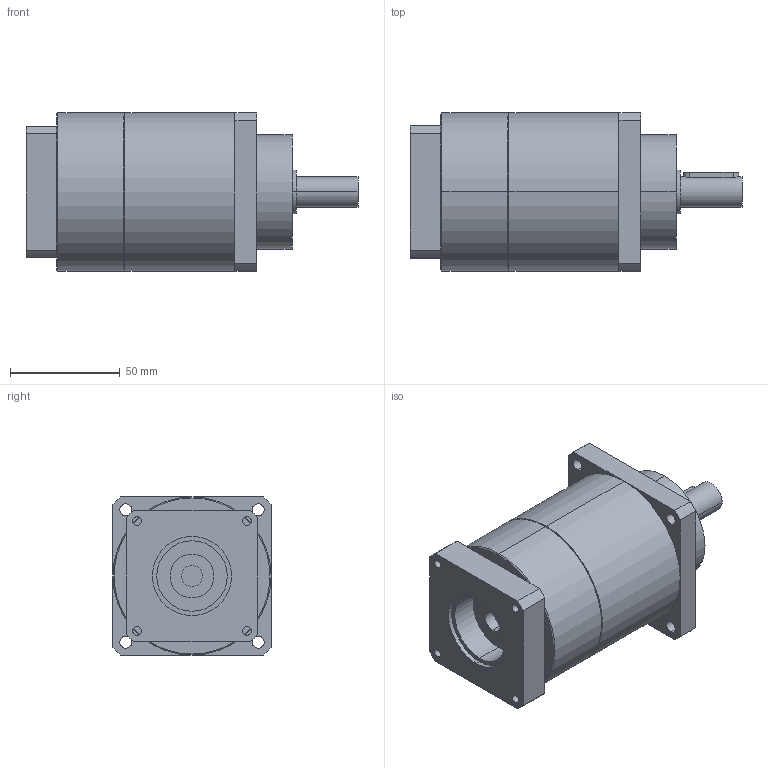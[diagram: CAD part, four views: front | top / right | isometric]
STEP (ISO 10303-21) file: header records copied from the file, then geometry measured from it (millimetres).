
FILE_DESCRIPTION(('CoCreate Modeling STEP Export'),'2;1');
FILE_NAME('GPT75_ig-9-12-16-20-25-28-35-40-50-70-100_14_B5T_9.52_P35.stp','2014-08-27T13:43:32',(''),(''),'CoCreate Modeling STEP processor for AP214 (Solid Model)','CoCreate Modeling 16.00C 25-Feb-2009 (C) Parametric Technology GmbH','');
FILE_SCHEMA(('AUTOMOTIVE_DESIGN { 1 0 10303 214 1 1 1 1 }'));
Length unit declared in the file: millimetre
Products named in the file (2): GPT75_ig-9-12-16-20-25-28-35-40-50-70-100_14_B5T_9.52_P35
Assembly tree (1 placements, depth 2):
  GPT75_ig-9-12-16-20-25-28-35-40-50-70-100_14_B5T_9.52_P35
    GPT75_ig-9-12-16-20-25-28-35-40-50-70-100_14_B5T_9.52_P35
Bounding box: 151 x 72 x 72 mm (x, y, z)
Volume: 455822.3 mm3; surface area: 43199.9 mm2
Topology: 1 solids, 1 shells, 88 faces, 226 edges, 145 vertices
Faces by surface type: cylinder 46, plane 38, cone 4
Entity records: 2676 total; most frequent: CARTESIAN_POINT 744, ORIENTED_EDGE 452, DIRECTION 334, EDGE_CURVE 226, VERTEX_POINT 145, AXIS2_PLACEMENT_3D 123, EDGE_LOOP 109, VECTOR 88
